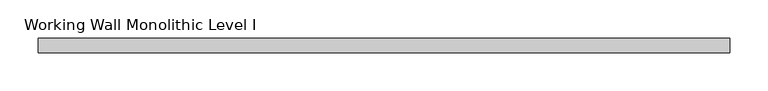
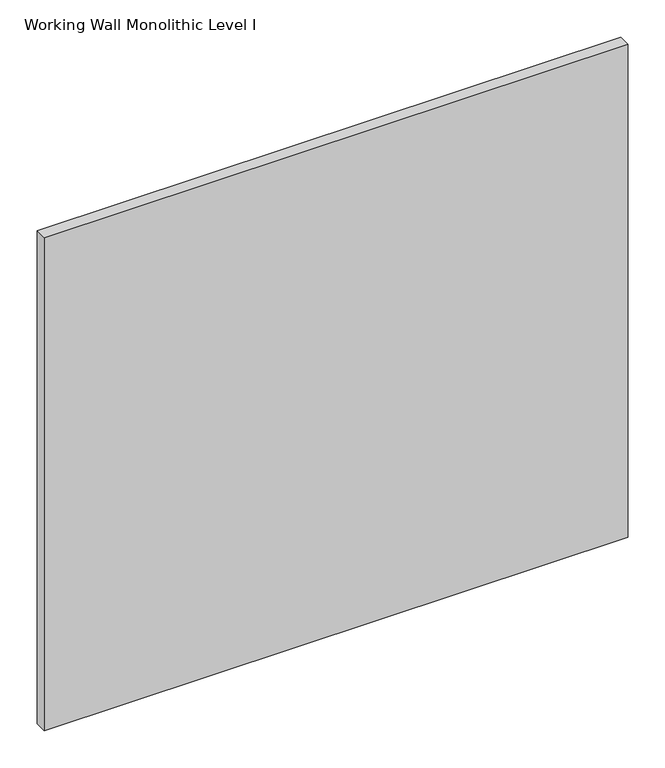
"""IFC4 building model written with IfcOpenShell, lengths in millimetres: proxy geometry, Panel-Fascia-Teknion-Altos-Standard : Working Wall Monolithic Level I."""

from ifc_helpers import new_model, si_unit, frame, origin, place, context, project, spatial, polyline, outline, extrude, source, transform, mapped, element, save


def working_wall_monolithic_level_i_fab2ca40(model_context):
    return source(origin(), model_context, "Body", "SweptSolid", [
        extrude(outline(polyline([(454.025, 9.525), (454.025, -9.525), (-454.025, -9.525), (-454.025, 9.525), (454.025, 9.525)])), frame((0.0, 0.0, 3.175), z_axis=(0.0, 0.0, 1.0), x_axis=(1.0, 0.0, 0.0)), (0.0, 0.0, 1.0), 810.768),
    ])


if __name__ == "__main__":
    model = new_model("IFC4")
    model_context = context("Model", 3, world=origin())
    ifc_project = project(units=[si_unit("LENGTHUNIT", "METRE", prefix="MILLI")], contexts=[model_context])
    site = spatial("IfcSite", under=ifc_project)
    building = spatial("IfcBuilding", under=site)
    placement = place(None, origin())
    working_wall_monolithic_level_i_shape = working_wall_monolithic_level_i_fab2ca40(model_context)
    element("IfcBuildingElementProxy", 1, Name="Panel-Fascia-Teknion-Altos-Standard : Working Wall Monolithic Level I", ObjectType="Panel-Fascia-Teknion-Altos-Standard : Working Wall Monolithic Level I", at=placement, inside=building, context=model_context, shape_type="MappedRepresentation", body=[
        mapped(working_wall_monolithic_level_i_shape, transform((0.0, 0.0, 0.0), x_axis=(1.0, 0.0, 0.0), y_axis=(0.0, 1.0, 0.0), z_axis=(0.0, 0.0, 1.0))),
    ])
    save(model, "model.ifc")
